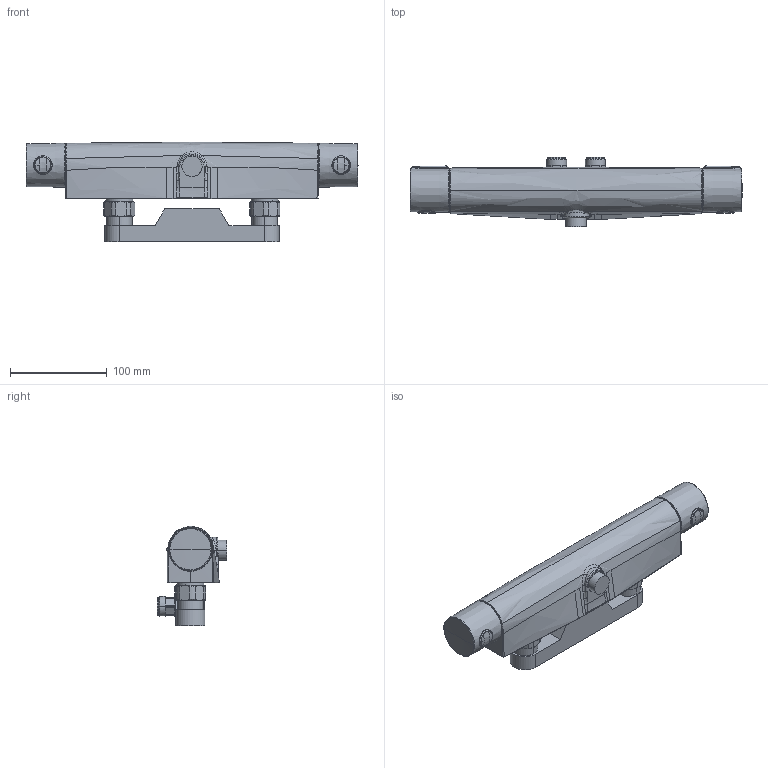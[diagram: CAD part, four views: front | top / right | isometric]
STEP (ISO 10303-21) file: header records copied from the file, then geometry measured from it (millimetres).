
FILE_DESCRIPTION (( 'STEP AP203' ), '1' );
FILE_NAME ('7151N(2023).STEP', '2022-12-20T09:25:32', ( '' ), ( '' ), 'SwSTEP 2.0', 'SolidWorks 2016', '' );
FILE_SCHEMA (( 'CONFIG_CONTROL_DESIGN' ));
Length unit declared in the file: millimetre
Products named in the file (1): 7151N(2023)
Bounding box: 342.5 x 72.21 x 102.69 mm (x, y, z)
Surface area: 102350.9 mm2 (no closed solid volume)
Topology: 0 solids, 4 shells, 369 faces, 870 edges, 537 vertices
Faces by surface type: bspline 182, plane 82, cylinder 53, cone 44, sphere 6, torus 2
Entity records: 25055 total; most frequent: CARTESIAN_POINT 17968, ORIENTED_EDGE 1732, DIRECTION 1011, EDGE_CURVE 868, VERTEX_POINT 537, B_SPLINE_CURVE_WITH_KNOTS 428, AXIS2_PLACEMENT_3D 425, EDGE_LOOP 403
